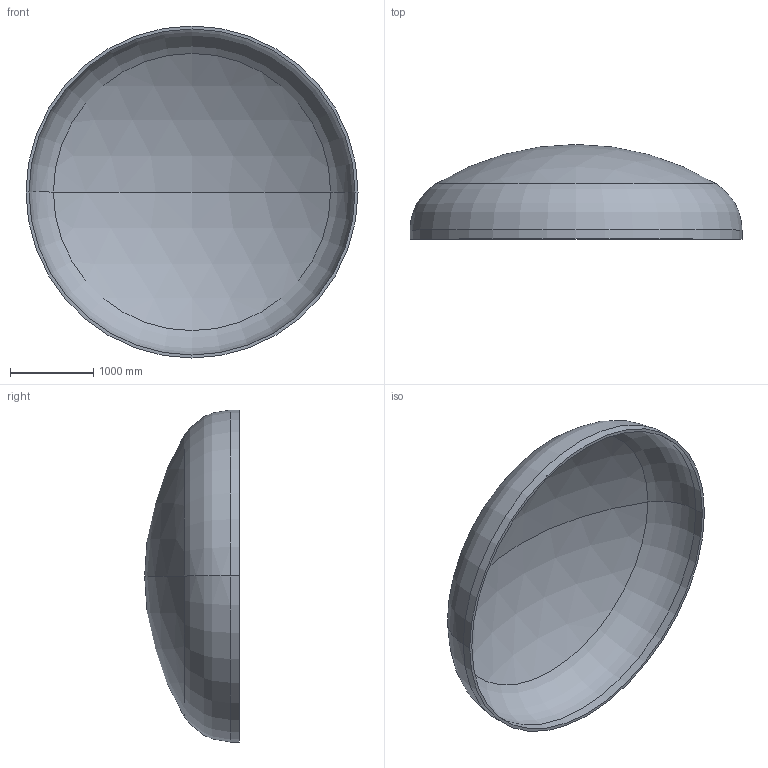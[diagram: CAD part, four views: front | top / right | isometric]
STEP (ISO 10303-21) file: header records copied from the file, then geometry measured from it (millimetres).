
FILE_DESCRIPTION (( 'STEP AP203' ), '1' );
FILE_NAME ('DIN 28013 Korbbogenform_-_Boden DIN 28013 - 4000 x 110 - I - s=36.step', '2016-07-01T22:19:32', ( '' ), ( '' ), 'SwSTEP 2.0', 'SolidWorks 2013', '' );
FILE_SCHEMA (( 'CONFIG_CONTROL_DESIGN' ));
Length unit declared in the file: millimetre
Products named in the file (1): DIN 28013 Korbbogenform_-_Boden DIN 28013 - 4000 x 110 - I - s=36
Bounding box: 4000 x 1140.91 x 4000 mm (x, y, z)
Volume: 668259118 mm3; surface area: 37576524.8 mm2
Topology: 1 solids, 1 shells, 13 faces, 24 edges, 14 vertices
Faces by surface type: torus 4, cylinder 4, sphere 4, plane 1
Entity records: 407 total; most frequent: DIRECTION 72, CARTESIAN_POINT 52, ORIENTED_EDGE 48, AXIS2_PLACEMENT_3D 34, EDGE_CURVE 24, CIRCLE 20, VERTEX_POINT 14, EDGE_LOOP 14
